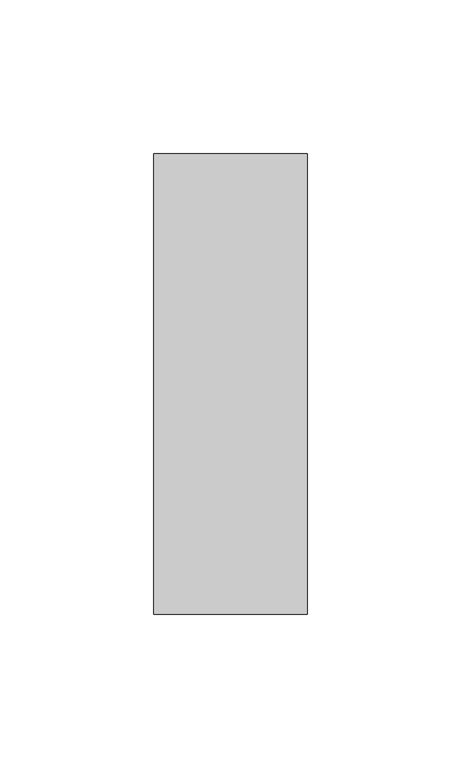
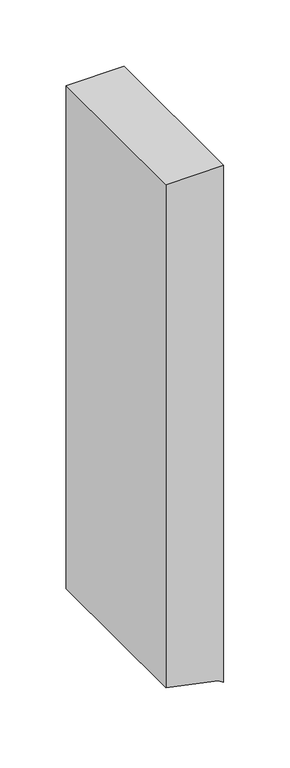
"""IFC4 building model written with IfcOpenShell, lengths in millimetres: member geometry, Прямоугольный импост : 50 x 150 мм."""

from ifc_helpers import new_model, si_unit, frame, origin, place, context, project, spatial, polyline, outline, extrude, source, transform, mapped, element, save


def member_1b866b78(model_context):
    return source(origin(), model_context, "Body", "SweptSolid", [
        extrude(outline(polyline([(0.0, 25.0), (0.0, -25.0), (-462.2033481, -25.0), (-471.7382045, 20.6613386), (-474.8764329, 25.0), (0.0, 25.0)])), frame((0.0, -75.0, 0.0), z_axis=(0.0, 1.0, 0.0), x_axis=(0.0, 0.0, 1.0)), (0.0, 0.0, 1.0), 150.0),
    ])


if __name__ == "__main__":
    model = new_model("IFC4")
    model_context = context("Model", 3, world=origin())
    ifc_project = project(units=[si_unit("LENGTHUNIT", "METRE", prefix="MILLI")], contexts=[model_context])
    site = spatial("IfcSite", under=ifc_project)
    building = spatial("IfcBuilding", under=site)
    placement = place(None, origin())
    member_shape = member_1b866b78(model_context)
    element("IfcMember", 1, ObjectType="Прямоугольный импост : 50 x 150 мм", at=placement, inside=building, context=model_context, shape_type="MappedRepresentation", body=[
        mapped(member_shape, transform((0.0, 0.0, 0.0), x_axis=(1.0, 0.0, 0.0), y_axis=(0.0, 1.0, 0.0), z_axis=(0.0, 0.0, 1.0))),
    ])
    save(model, "model.ifc")
